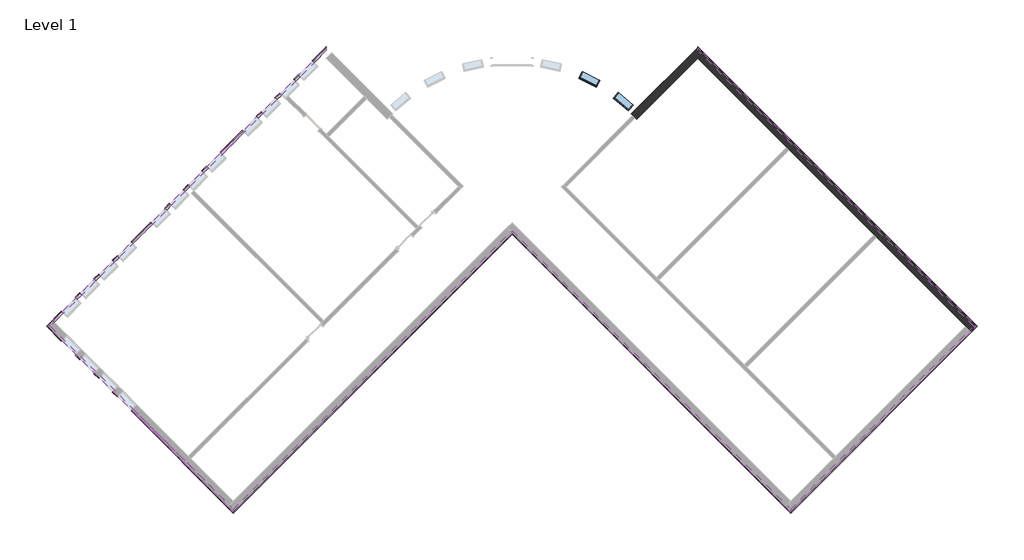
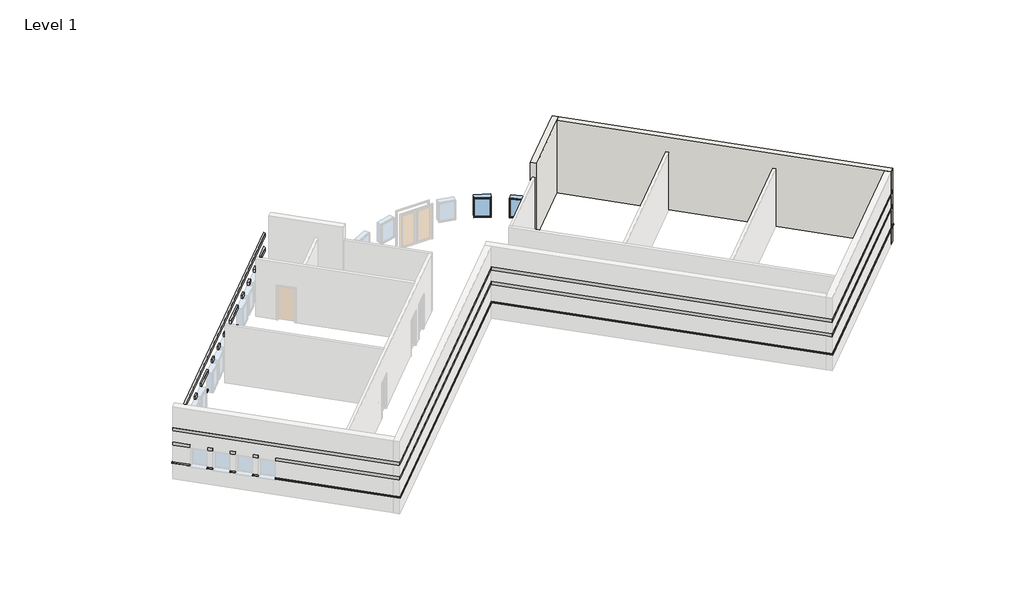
# One storey, part 2 of 2: 18 proxies, 2 walls, 2 windows.
"""IFC4 building model written with IfcOpenShell, lengths in millimetres."""

from ifc_helpers import new_model, si_unit, frame, origin, place, context, project, spatial, polyline, circle_curve, faceted_brep, transform, mapped, element, save
from ifc_brep_helpers import plane_surface, cylinder_surface, revolved_surface, advanced_brep
from components import window_0e2fc6ce

model = new_model("IFC4")

# Units and contexts
model_context = context("Model", 3, world=origin())
ifc_project = project(units=[si_unit("LENGTHUNIT", "METRE", prefix="MILLI")], contexts=[model_context])

# Site, building, storey
site = spatial("IfcSite", under=ifc_project)
building = spatial("IfcBuilding", under=site)
storey = spatial("IfcBuildingStorey", under=building, Name="Level 1", Elevation=0.0)

# Proxies
placement = place(None, origin())
element("IfcBuildingElementProxy", 1, Name="Wall Sweeps", at=placement, inside=storey, context=model_context, shape_type="Brep", body=[
    faceted_brep([(5753.0175119, 11443.3655905, 1085.85), (5753.0175119, 11573.5793042, 1085.85), (5753.0175119, 11622.9707129, 1041.4), (5753.0175119, 11622.9707129, 1016.0), (5753.0175119, 11443.3655905, 1016.0), (18554.3726125, -1357.9895101, 1085.85), (18554.3726125, -1357.9895101, 1016.0), (18733.9777349, -1357.9895101, 1016.0), (18733.9777349, -1357.9895101, 1041.4), (18684.5863263, -1357.9895101, 1085.85), (5937.1127624, 11259.27034, 1085.85), (5937.1127624, 11259.27034, 1016.0)], [[[0, 1, 2, 3, 4]], [[5, 6, 7, 8, 9]], [[1, 0, 10, 5, 9]], [[2, 1, 9, 8]], [[3, 2, 8, 7]], [[4, 3, 7, 6, 11]], [[0, 4, 11, 6, 5, 10]]]),
])
element("IfcBuildingElementProxy", 2, Name="Wall Sweeps", at=placement, inside=storey, context=model_context, shape_type="Brep", body=[
    faceted_brep([(5753.0175119, 11573.5793042, 2336.8), (5753.0175119, 11573.5793042, 2133.6), (5753.0175119, 11443.3655905, 2133.6), (5753.0175119, 11443.3655905, 2336.8), (18684.5863263, -1357.9895101, 2336.8), (18554.3726125, -1357.9895101, 2336.8), (18554.3726125, -1357.9895101, 2133.6), (18684.5863263, -1357.9895101, 2133.6), (6002.2196193, 11324.3771969, 2336.8), (6002.2196193, 11324.3771969, 2133.6), (5937.1127624, 11259.27034, 2133.6), (5937.1127624, 11259.27034, 2336.8)], [[[0, 1, 2, 3]], [[4, 5, 6, 7]], [[1, 0, 8, 4, 7, 9]], [[2, 1, 9, 7, 6, 10]], [[3, 2, 10, 6, 5, 11]], [[0, 3, 11, 5, 4, 8]]]),
])
element("IfcBuildingElementProxy", 3, Name="Wall Sweeps", at=placement, inside=storey, context=model_context, shape_type="Brep", body=[
    faceted_brep([(5753.0175119, 11573.5793042, 3251.2), (5753.0175119, 11573.5793042, 3048.0), (5753.0175119, 11443.3655905, 3048.0), (5753.0175119, 11443.3655905, 3251.2), (18684.5863263, -1357.9895101, 3251.2), (18554.3726125, -1357.9895101, 3251.2), (18554.3726125, -1357.9895101, 3048.0), (18684.5863263, -1357.9895101, 3048.0), (6002.2196193, 11324.3771969, 3251.2), (6002.2196193, 11324.3771969, 3048.0), (5937.1127624, 11259.27034, 3048.0), (5937.1127624, 11259.27034, 3251.2)], [[[0, 1, 2, 3]], [[4, 5, 6, 7]], [[1, 0, 8, 4, 7, 9]], [[2, 1, 9, 7, 6, 10]], [[3, 2, 10, 6, 5, 11]], [[0, 3, 11, 5, 4, 8]]]),
])
element("IfcBuildingElementProxy", 4, Name="Wall Sweeps", at=placement, inside=storey, context=model_context, shape_type="Brep", body=[
    faceted_brep([(18554.3726125, -1357.9895101, 1085.85), (18684.5863263, -1357.9895101, 1085.85), (18733.9777349, -1357.9895101, 1041.4), (18733.9777349, -1357.9895101, 1016.0), (18554.3726125, -1357.9895101, 1016.0), (10063.54045, -9848.8216726, 1085.85), (10063.54045, -9848.8216726, 1016.0), (10063.54045, -10028.426795, 1016.0), (10063.54045, -10028.426795, 1041.4), (10063.54045, -9979.0353863, 1085.85), (18370.277362, -1542.0847606, 1085.85), (18370.277362, -1542.0847606, 1016.0)], [[[0, 1, 2, 3, 4]], [[5, 6, 7, 8, 9]], [[1, 0, 10, 5, 9]], [[2, 1, 9, 8]], [[3, 2, 8, 7]], [[4, 3, 7, 6, 11]], [[0, 4, 11, 6, 5, 10]]]),
])
element("IfcBuildingElementProxy", 5, Name="Wall Sweeps", at=placement, inside=storey, context=model_context, shape_type="Brep", body=[
    faceted_brep([(18684.5863263, -1357.9895101, 2336.8), (18684.5863263, -1357.9895101, 2133.6), (18554.3726125, -1357.9895101, 2133.6), (18554.3726125, -1357.9895101, 2336.8), (10063.54045, -9979.0353863, 2336.8), (10063.54045, -9848.8216726, 2336.8), (10063.54045, -9848.8216726, 2133.6), (10063.54045, -9979.0353863, 2133.6), (18435.3842189, -1607.1916175, 2336.8), (18435.3842189, -1607.1916175, 2133.6), (18370.277362, -1542.0847606, 2133.6), (18370.277362, -1542.0847606, 2336.8)], [[[0, 1, 2, 3]], [[4, 5, 6, 7]], [[1, 0, 8, 4, 7, 9]], [[2, 1, 9, 7, 6, 10]], [[3, 2, 10, 6, 5, 11]], [[0, 3, 11, 5, 4, 8]]]),
])
element("IfcBuildingElementProxy", 6, Name="Wall Sweeps", at=placement, inside=storey, context=model_context, shape_type="Brep", body=[
    faceted_brep([(18684.5863263, -1357.9895101, 3251.2), (18684.5863263, -1357.9895101, 3048.0), (18554.3726125, -1357.9895101, 3048.0), (18554.3726125, -1357.9895101, 3251.2), (10063.54045, -9979.0353863, 3251.2), (10063.54045, -9848.8216726, 3251.2), (10063.54045, -9848.8216726, 3048.0), (10063.54045, -9979.0353863, 3048.0), (18435.3842189, -1607.1916175, 3251.2), (18435.3842189, -1607.1916175, 3048.0), (18370.277362, -1542.0847606, 3048.0), (18370.277362, -1542.0847606, 3251.2)], [[[0, 1, 2, 3]], [[4, 5, 6, 7]], [[1, 0, 8, 4, 7, 9]], [[2, 1, 9, 7, 6, 10]], [[3, 2, 10, 6, 5, 11]], [[0, 3, 11, 5, 4, 8]]]),
])
element("IfcBuildingElementProxy", 7, Name="Wall Sweeps", at=placement, inside=storey, context=model_context, shape_type="Brep", body=[
    faceted_brep([(10063.54045, -9848.8216726, 1085.85), (10063.54045, -9979.0353863, 1085.85), (10063.54045, -10028.426795, 1041.4), (10063.54045, -10028.426795, 1016.0), (10063.54045, -9848.8216726, 1016.0), (-2868.0283643, 3082.7471418, 1085.85), (-2868.0283643, 3082.7471418, 1016.0), (-2868.0283643, 2903.1420194, 1016.0), (-2868.0283643, 2903.1420194, 1041.4), (-2868.0283643, 2952.533428, 1085.85), (9879.4451996, -9664.7264221, 1085.85), (9879.4451996, -9664.7264221, 1016.0)], [[[0, 1, 2, 3, 4]], [[5, 6, 7, 8, 9]], [[1, 0, 10, 5, 9]], [[2, 1, 9, 8]], [[3, 2, 8, 7]], [[4, 3, 7, 6, 11]], [[0, 4, 11, 6, 5, 10]]]),
])
element("IfcBuildingElementProxy", 8, Name="Wall Sweeps", at=placement, inside=storey, context=model_context, shape_type="Brep", body=[
    faceted_brep([(10063.54045, -9979.0353863, 2336.8), (10063.54045, -9979.0353863, 2133.6), (10063.54045, -9848.8216726, 2133.6), (10063.54045, -9848.8216726, 2336.8), (-2868.0283643, 2952.533428, 2336.8), (-2868.0283643, 3082.7471418, 2336.8), (-2868.0283643, 3082.7471418, 2133.6), (-2868.0283643, 2952.533428, 2133.6), (9814.3383427, -9729.833279, 2336.8), (9814.3383427, -9729.833279, 2133.6), (9879.4451996, -9664.7264221, 2133.6), (9879.4451996, -9664.7264221, 2336.8)], [[[0, 1, 2, 3]], [[4, 5, 6, 7]], [[1, 0, 8, 4, 7, 9]], [[2, 1, 9, 7, 6, 10]], [[3, 2, 10, 6, 5, 11]], [[0, 3, 11, 5, 4, 8]]]),
])
element("IfcBuildingElementProxy", 9, Name="Wall Sweeps", at=placement, inside=storey, context=model_context, shape_type="Brep", body=[
    faceted_brep([(10063.54045, -9979.0353863, 3251.2), (10063.54045, -9979.0353863, 3048.0), (10063.54045, -9848.8216726, 3048.0), (10063.54045, -9848.8216726, 3251.2), (-2868.0283643, 2952.533428, 3251.2), (-2868.0283643, 3082.7471418, 3251.2), (-2868.0283643, 3082.7471418, 3048.0), (-2868.0283643, 2952.533428, 3048.0), (9814.3383427, -9729.833279, 3251.2), (9814.3383427, -9729.833279, 3048.0), (9879.4451996, -9664.7264221, 3048.0), (9879.4451996, -9664.7264221, 3251.2)], [[[0, 1, 2, 3]], [[4, 5, 6, 7]], [[1, 0, 8, 4, 7, 9]], [[2, 1, 9, 7, 6, 10]], [[3, 2, 10, 6, 5, 11]], [[0, 3, 11, 5, 4, 8]]]),
])
element("IfcBuildingElementProxy", 10, Name="Wall Sweeps", at=placement, inside=storey, context=model_context, shape_type="Brep", body=[
    faceted_brep([(-2868.0283643, 3082.7471418, 1085.85), (-2868.0283643, 2952.533428, 1085.85), (-2868.0283643, 2903.1420194, 1041.4), (-2868.0283643, 2903.1420194, 1016.0), (-2868.0283643, 3082.7471418, 1016.0), (-15799.5971786, -9848.8216726, 1085.85), (-15799.5971786, -9848.8216726, 1016.0), (-15799.5971786, -10028.426795, 1016.0), (-15799.5971786, -10028.426795, 1041.4), (-15799.5971786, -9979.0353863, 1085.85), (-2933.1352212, 3017.6402849, 1085.85), (-2933.1352212, 3017.6402849, 1016.0)], [[[0, 1, 2, 3, 4]], [[5, 6, 7, 8, 9]], [[1, 0, 10, 5, 9]], [[2, 1, 9, 8]], [[3, 2, 8, 7]], [[4, 3, 7, 6, 11]], [[0, 4, 11, 6, 5, 10]]]),
])
element("IfcBuildingElementProxy", 11, Name="Wall Sweeps", at=placement, inside=storey, context=model_context, shape_type="Brep", body=[
    faceted_brep([(-2868.0283643, 2952.533428, 2336.8), (-2868.0283643, 2952.533428, 2133.6), (-2868.0283643, 3082.7471418, 2133.6), (-2868.0283643, 3082.7471418, 2336.8), (-15799.5971786, -9979.0353863, 2336.8), (-15799.5971786, -9848.8216726, 2336.8), (-15799.5971786, -9848.8216726, 2133.6), (-15799.5971786, -9979.0353863, 2133.6), (-2933.1352212, 3017.6402849, 2133.6), (-2933.1352212, 3017.6402849, 2336.8)], [[[0, 1, 2, 3]], [[4, 5, 6, 7]], [[1, 0, 4, 7]], [[2, 1, 7, 6, 8]], [[3, 2, 8, 6, 5, 9]], [[0, 3, 9, 5, 4]]]),
])
element("IfcBuildingElementProxy", 12, Name="Wall Sweeps", at=placement, inside=storey, context=model_context, shape_type="Brep", body=[
    faceted_brep([(-2868.0283643, 2952.533428, 3251.2), (-2868.0283643, 2952.533428, 3048.0), (-2868.0283643, 3082.7471418, 3048.0), (-2868.0283643, 3082.7471418, 3251.2), (-15799.5971786, -9979.0353863, 3251.2), (-15799.5971786, -9848.8216726, 3251.2), (-15799.5971786, -9848.8216726, 3048.0), (-15799.5971786, -9979.0353863, 3048.0), (-2933.1352212, 3017.6402849, 3048.0), (-2933.1352212, 3017.6402849, 3251.2)], [[[0, 1, 2, 3]], [[4, 5, 6, 7]], [[1, 0, 4, 7]], [[2, 1, 7, 6, 8]], [[3, 2, 8, 6, 5, 9]], [[0, 3, 9, 5, 4]]]),
])
element("IfcBuildingElementProxy", 13, Name="Wall Sweeps", at=placement, inside=storey, context=model_context, shape_type="Brep", body=[
    faceted_brep([(-15799.5971786, -9848.8216726, 1085.85), (-15799.5971786, -9979.0353863, 1085.85), (-15799.5971786, -10028.426795, 1041.4), (-15799.5971786, -10028.426795, 1016.0), (-15799.5971786, -9848.8216726, 1016.0), (-20459.2275735, -5189.1912777, 1085.85), (-20459.2275735, -5189.1912777, 1016.0), (-20524.3344303, -5254.2981346, 1016.0), (-20549.0301347, -5278.993839, 1016.0), (-20549.0301347, -5278.993839, 1041.4), (-20524.3344303, -5254.2981346, 1085.85), (-15983.6924291, -9664.7264221, 1085.85), (-15983.6924291, -9664.7264221, 1016.0)], [[[0, 1, 2, 3, 4]], [[5, 6, 7, 8, 9, 10]], [[1, 0, 11, 5, 10]], [[2, 1, 10, 9]], [[3, 2, 9, 8]], [[4, 3, 8, 7, 6, 12]], [[0, 4, 12, 6, 5, 11]]]),
    faceted_brep([(-21105.8060142, -4542.612837, 1085.85), (-21170.9128711, -4607.7196939, 1085.85), (-21195.6085754, -4632.4153982, 1041.4), (-21195.6085754, -4632.4153982, 1016.0), (-21170.9128711, -4607.7196939, 1016.0), (-21105.8060142, -4542.612837, 1016.0), (-21321.3321611, -4327.0866901, 1085.85), (-21321.3321611, -4327.0866901, 1016.0), (-21386.439018, -4392.193547, 1016.0), (-21411.1347223, -4416.8892513, 1016.0), (-21411.1347223, -4416.8892513, 1041.4), (-21386.439018, -4392.193547, 1085.85)], [[[0, 1, 2, 3, 4, 5]], [[6, 7, 8, 9, 10, 11]], [[1, 0, 6, 11]], [[2, 1, 11, 10]], [[3, 2, 10, 9]], [[5, 4, 3, 9, 8, 7]], [[0, 5, 7, 6]]]),
    faceted_brep([(-21967.9106018, -3680.5082494, 1085.85), (-22033.0174587, -3745.6151063, 1085.85), (-22057.713163, -3770.3108106, 1041.4), (-22057.713163, -3770.3108106, 1016.0), (-22033.0174587, -3745.6151063, 1016.0), (-21967.9106018, -3680.5082494, 1016.0), (-22183.4367487, -3464.9821025, 1085.85), (-22183.4367487, -3464.9821025, 1016.0), (-22248.5436056, -3530.0889594, 1016.0), (-22273.2393099, -3554.7846637, 1016.0), (-22273.2393099, -3554.7846637, 1041.4), (-22248.5436056, -3530.0889594, 1085.85)], [[[0, 1, 2, 3, 4, 5]], [[6, 7, 8, 9, 10, 11]], [[1, 0, 6, 11]], [[2, 1, 11, 10]], [[3, 2, 10, 9]], [[5, 4, 3, 9, 8, 7]], [[0, 5, 7, 6]]]),
    faceted_brep([(-22830.0151894, -2818.4036618, 1085.85), (-22895.1220463, -2883.5105187, 1085.85), (-22919.8177506, -2908.206223, 1041.4), (-22919.8177506, -2908.206223, 1016.0), (-22895.1220463, -2883.5105187, 1016.0), (-22830.0151894, -2818.4036618, 1016.0), (-23045.5413363, -2602.8775149, 1085.85), (-23045.5413363, -2602.8775149, 1016.0), (-23110.6481932, -2667.9843718, 1016.0), (-23135.3438975, -2692.6800761, 1016.0), (-23135.3438975, -2692.6800761, 1041.4), (-23110.6481932, -2667.9843718, 1085.85)], [[[0, 1, 2, 3, 4, 5]], [[6, 7, 8, 9, 10, 11]], [[1, 0, 6, 11]], [[2, 1, 11, 10]], [[3, 2, 10, 9]], [[5, 4, 3, 9, 8, 7]], [[0, 5, 7, 6]]]),
    faceted_brep([(-23692.119777, -1956.2990742, 1085.85), (-23757.2266339, -2021.405931, 1085.85), (-23781.9223383, -2046.1016354, 1041.4), (-23781.9223383, -2046.1016354, 1016.0), (-23757.2266339, -2021.405931, 1016.0), (-23692.119777, -1956.2990742, 1016.0), (-24290.4293411, -1357.9895101, 1085.85), (-24290.4293411, -1357.9895101, 1016.0), (-24470.0344635, -1357.9895101, 1016.0), (-24470.0344635, -1357.9895101, 1041.4), (-24420.6430549, -1357.9895101, 1085.85)], [[[0, 1, 2, 3, 4, 5]], [[6, 7, 8, 9, 10]], [[1, 0, 6, 10]], [[2, 1, 10, 9]], [[3, 2, 9, 8]], [[5, 4, 3, 8, 7]], [[0, 5, 7, 6]]]),
])
element("IfcBuildingElementProxy", 14, Name="Wall Sweeps", at=placement, inside=storey, context=model_context, shape_type="Brep", body=[
    faceted_brep([(-15799.5971786, -9979.0353863, 2336.8), (-15799.5971786, -9979.0353863, 2133.6), (-15799.5971786, -9848.8216726, 2133.6), (-15799.5971786, -9848.8216726, 2336.8), (-20524.3344303, -5254.2981346, 2336.8), (-20459.2275735, -5189.1912777, 2336.8), (-20459.2275735, -5189.1912777, 2133.6), (-20524.3344303, -5254.2981346, 2133.6), (-16048.799286, -9729.833279, 2336.8), (-16048.799286, -9729.833279, 2133.6), (-15983.6924291, -9664.7264221, 2133.6), (-15983.6924291, -9664.7264221, 2336.8)], [[[0, 1, 2, 3]], [[4, 5, 6, 7]], [[1, 0, 8, 4, 7, 9]], [[2, 1, 9, 7, 6, 10]], [[3, 2, 10, 6, 5, 11]], [[0, 3, 11, 5, 4, 8]]]),
    faceted_brep([(-21170.9128711, -4607.7196939, 2336.8), (-21170.9128711, -4607.7196939, 2133.6), (-21105.8060142, -4542.612837, 2133.6), (-21105.8060142, -4542.612837, 2336.8), (-21386.439018, -4392.193547, 2336.8), (-21321.3321611, -4327.0866901, 2336.8), (-21321.3321611, -4327.0866901, 2133.6), (-21386.439018, -4392.193547, 2133.6)], [[[0, 1, 2, 3]], [[4, 5, 6, 7]], [[1, 0, 4, 7]], [[2, 1, 7, 6]], [[3, 2, 6, 5]], [[0, 3, 5, 4]]]),
    faceted_brep([(-22033.0174587, -3745.6151063, 2336.8), (-22033.0174587, -3745.6151063, 2133.6), (-21967.9106018, -3680.5082494, 2133.6), (-21967.9106018, -3680.5082494, 2336.8), (-22248.5436056, -3530.0889594, 2336.8), (-22183.4367487, -3464.9821025, 2336.8), (-22183.4367487, -3464.9821025, 2133.6), (-22248.5436056, -3530.0889594, 2133.6)], [[[0, 1, 2, 3]], [[4, 5, 6, 7]], [[1, 0, 4, 7]], [[2, 1, 7, 6]], [[3, 2, 6, 5]], [[0, 3, 5, 4]]]),
    faceted_brep([(-22895.1220463, -2883.5105187, 2336.8), (-22895.1220463, -2883.5105187, 2133.6), (-22830.0151894, -2818.4036618, 2133.6), (-22830.0151894, -2818.4036618, 2336.8), (-23110.6481932, -2667.9843718, 2336.8), (-23045.5413363, -2602.8775149, 2336.8), (-23045.5413363, -2602.8775149, 2133.6), (-23110.6481932, -2667.9843718, 2133.6)], [[[0, 1, 2, 3]], [[4, 5, 6, 7]], [[1, 0, 4, 7]], [[2, 1, 7, 6]], [[3, 2, 6, 5]], [[0, 3, 5, 4]]]),
    faceted_brep([(-23757.2266339, -2021.405931, 2336.8), (-23757.2266339, -2021.405931, 2133.6), (-23692.119777, -1956.2990742, 2133.6), (-23692.119777, -1956.2990742, 2336.8), (-24420.6430549, -1357.9895101, 2336.8), (-24290.4293411, -1357.9895101, 2336.8), (-24290.4293411, -1357.9895101, 2133.6), (-24420.6430549, -1357.9895101, 2133.6)], [[[0, 1, 2, 3]], [[4, 5, 6, 7]], [[1, 0, 4, 7]], [[2, 1, 7, 6]], [[3, 2, 6, 5]], [[0, 3, 5, 4]]]),
])
element("IfcBuildingElementProxy", 15, Name="Wall Sweeps", at=placement, inside=storey, context=model_context, shape_type="Brep", body=[
    faceted_brep([(-15799.5971786, -9979.0353863, 3251.2), (-15799.5971786, -9979.0353863, 3048.0), (-15799.5971786, -9848.8216726, 3048.0), (-15799.5971786, -9848.8216726, 3251.2), (-24420.6430549, -1357.9895101, 3251.2), (-24290.4293411, -1357.9895101, 3251.2), (-24290.4293411, -1357.9895101, 3048.0), (-24420.6430549, -1357.9895101, 3048.0), (-16048.799286, -9729.833279, 3251.2), (-16048.799286, -9729.833279, 3048.0), (-15983.6924291, -9664.7264221, 3048.0), (-15983.6924291, -9664.7264221, 3251.2)], [[[0, 1, 2, 3]], [[4, 5, 6, 7]], [[1, 0, 8, 4, 7, 9]], [[2, 1, 9, 7, 6, 10]], [[3, 2, 10, 6, 5, 11]], [[0, 3, 11, 5, 4, 8]]]),
])
element("IfcBuildingElementProxy", 16, Name="Wall Sweeps", at=placement, inside=storey, context=model_context, shape_type="Brep", body=[
    faceted_brep([(-24290.4293411, -1357.9895101, 1085.85), (-24420.6430549, -1357.9895101, 1085.85), (-24470.0344635, -1357.9895101, 1041.4), (-24470.0344635, -1357.9895101, 1016.0), (-24290.4293411, -1357.9895101, 1016.0), (-23692.119777, -759.679946, 1085.85), (-23692.119777, -759.679946, 1016.0), (-23757.2266339, -694.5730891, 1016.0), (-23781.9223383, -669.8773848, 1016.0), (-23781.9223383, -669.8773848, 1041.4), (-23757.2266339, -694.5730891, 1085.85), (-24106.3340906, -1173.8942596, 1085.85), (-24106.3340906, -1173.8942596, 1016.0)], [[[0, 1, 2, 3, 4]], [[5, 6, 7, 8, 9, 10]], [[1, 0, 11, 5, 10]], [[2, 1, 10, 9]], [[3, 2, 9, 8]], [[4, 3, 8, 7, 6, 12]], [[0, 4, 12, 6, 5, 11]]]),
    faceted_brep([(-23045.5413363, -113.1015053, 1085.85), (-23110.6481932, -47.9946484, 1085.85), (-23135.3438975, -23.2989441, 1041.4), (-23135.3438975, -23.2989441, 1016.0), (-23110.6481932, -47.9946484, 1016.0), (-23045.5413363, -113.1015053, 1016.0), (-22830.0151894, 102.4246416, 1085.85), (-22830.0151894, 102.4246416, 1016.0), (-22895.1220463, 167.5314985, 1016.0), (-22919.8177506, 192.2272028, 1016.0), (-22919.8177506, 192.2272028, 1041.4), (-22895.1220463, 167.5314985, 1085.85)], [[[0, 1, 2, 3, 4, 5]], [[6, 7, 8, 9, 10, 11]], [[1, 0, 6, 11]], [[2, 1, 11, 10]], [[3, 2, 10, 9]], [[5, 4, 3, 9, 8, 7]], [[0, 5, 7, 6]]]),
    faceted_brep([(-22183.4367487, 749.0030823, 1085.85), (-22248.5436056, 814.1099392, 1085.85), (-22273.2393099, 838.8056435, 1041.4), (-22273.2393099, 838.8056435, 1016.0), (-22248.5436056, 814.1099392, 1016.0), (-22183.4367487, 749.0030823, 1016.0), (-21967.9106018, 964.5292292, 1085.85), (-21967.9106018, 964.5292292, 1016.0), (-22033.0174587, 1029.6360861, 1016.0), (-22057.713163, 1054.3317904, 1016.0), (-22057.713163, 1054.3317904, 1041.4), (-22033.0174587, 1029.6360861, 1085.85)], [[[0, 1, 2, 3, 4, 5]], [[6, 7, 8, 9, 10, 11]], [[1, 0, 6, 11]], [[2, 1, 11, 10]], [[3, 2, 10, 9]], [[5, 4, 3, 9, 8, 7]], [[0, 5, 7, 6]]]),
    faceted_brep([(-21321.3321611, 1611.1076699, 1085.85), (-21386.439018, 1676.2145268, 1085.85), (-21411.1347223, 1700.9102311, 1041.4), (-21411.1347223, 1700.9102311, 1016.0), (-21386.439018, 1676.2145268, 1016.0), (-21321.3321611, 1611.1076699, 1016.0), (-21105.8060142, 1826.6338168, 1085.85), (-21105.8060142, 1826.6338168, 1016.0), (-21170.9128711, 1891.7406737, 1016.0), (-21195.6085754, 1916.4363781, 1016.0), (-21195.6085754, 1916.4363781, 1041.4), (-21170.9128711, 1891.7406737, 1085.85)], [[[0, 1, 2, 3, 4, 5]], [[6, 7, 8, 9, 10, 11]], [[1, 0, 6, 11]], [[2, 1, 11, 10]], [[3, 2, 10, 9]], [[5, 4, 3, 9, 8, 7]], [[0, 5, 7, 6]]]),
    faceted_brep([(-20459.2275735, 2473.2122576, 1085.85), (-20524.3344303, 2538.3191144, 1085.85), (-20549.0301347, 2563.0148188, 1041.4), (-20549.0301347, 2563.0148188, 1016.0), (-20524.3344303, 2538.3191144, 1016.0), (-20459.2275735, 2473.2122576, 1016.0), (-19544.2461989, 3388.1936322, 1085.85), (-19544.2461989, 3388.1936322, 1016.0), (-19609.3530557, 3453.300489, 1016.0), (-19634.0487601, 3477.9961934, 1016.0), (-19634.0487601, 3477.9961934, 1041.4), (-19609.3530557, 3453.300489, 1085.85)], [[[0, 1, 2, 3, 4, 5]], [[6, 7, 8, 9, 10, 11]], [[1, 0, 6, 11]], [[2, 1, 11, 10]], [[3, 2, 10, 9]], [[5, 4, 3, 9, 8, 7]], [[0, 5, 7, 6]]]),
    faceted_brep([(-18897.6677581, 4034.7720729, 1085.85), (-18962.774615, 4099.8789298, 1085.85), (-18987.4703194, 4124.5746341, 1041.4), (-18987.4703194, 4124.5746341, 1016.0), (-18962.774615, 4099.8789298, 1016.0), (-18897.6677581, 4034.7720729, 1016.0), (-18682.1416112, 4250.2982198, 1085.85), (-18682.1416112, 4250.2982198, 1016.0), (-18747.2484681, 4315.4050767, 1016.0), (-18771.9441724, 4340.100781, 1016.0), (-18771.9441724, 4340.100781, 1041.4), (-18747.2484681, 4315.4050767, 1085.85)], [[[0, 1, 2, 3, 4, 5]], [[6, 7, 8, 9, 10, 11]], [[1, 0, 6, 11]], [[2, 1, 11, 10]], [[3, 2, 10, 9]], [[5, 4, 3, 9, 8, 7]], [[0, 5, 7, 6]]]),
    faceted_brep([(-18035.5631705, 4896.8766605, 1085.85), (-18100.6700274, 4961.9835174, 1085.85), (-18125.3657317, 4986.6792217, 1041.4), (-18125.3657317, 4986.6792217, 1016.0), (-18100.6700274, 4961.9835174, 1016.0), (-18035.5631705, 4896.8766605, 1016.0), (-17820.0370236, 5112.4028074, 1085.85), (-17820.0370236, 5112.4028074, 1016.0), (-17885.1438805, 5177.5096643, 1016.0), (-17909.8395848, 5202.2053686, 1016.0), (-17909.8395848, 5202.2053686, 1041.4), (-17885.1438805, 5177.5096643, 1085.85)], [[[0, 1, 2, 3, 4, 5]], [[6, 7, 8, 9, 10, 11]], [[1, 0, 6, 11]], [[2, 1, 11, 10]], [[3, 2, 10, 9]], [[5, 4, 3, 9, 8, 7]], [[0, 5, 7, 6]]]),
    faceted_brep([(-17173.4585829, 5758.9812481, 1085.85), (-17238.5654398, 5824.088105, 1085.85), (-17263.2611441, 5848.7838093, 1041.4), (-17263.2611441, 5848.7838093, 1016.0), (-17238.5654398, 5824.088105, 1016.0), (-17173.4585829, 5758.9812481, 1016.0), (-16957.932436, 5974.507395, 1085.85), (-16957.932436, 5974.507395, 1016.0), (-17023.0392929, 6039.6142519, 1016.0), (-17047.7349972, 6064.3099562, 1016.0), (-17047.7349972, 6064.3099562, 1041.4), (-17023.0392929, 6039.6142519, 1085.85)], [[[0, 1, 2, 3, 4, 5]], [[6, 7, 8, 9, 10, 11]], [[1, 0, 6, 11]], [[2, 1, 11, 10]], [[3, 2, 10, 9]], [[5, 4, 3, 9, 8, 7]], [[0, 5, 7, 6]]]),
    faceted_brep([(-16311.3539953, 6621.0858357, 1085.85), (-16376.4608522, 6686.1926926, 1085.85), (-16401.1565565, 6710.888397, 1041.4), (-16401.1565565, 6710.888397, 1016.0), (-16376.4608522, 6686.1926926, 1016.0), (-16311.3539953, 6621.0858357, 1016.0), (-15286.3644832, 7646.0753478, 1085.85), (-15286.3644832, 7646.0753478, 1016.0), (-15351.4713401, 7711.1822047, 1016.0), (-15376.1670444, 7735.877909, 1016.0), (-15376.1670444, 7735.877909, 1041.4), (-15351.4713401, 7711.1822047, 1085.85)], [[[0, 1, 2, 3, 4, 5]], [[6, 7, 8, 9, 10, 11]], [[1, 0, 6, 11]], [[2, 1, 11, 10]], [[3, 2, 10, 9]], [[5, 4, 3, 9, 8, 7]], [[0, 5, 7, 6]]]),
    faceted_brep([(-14639.7860425, 8292.6537886, 1085.85), (-14704.8928993, 8357.7606454, 1085.85), (-14729.5886037, 8382.4563498, 1041.4), (-14729.5886037, 8382.4563498, 1016.0), (-14704.8928993, 8357.7606454, 1016.0), (-14639.7860425, 8292.6537886, 1016.0), (-14424.2598956, 8508.1799355, 1085.85), (-14424.2598956, 8508.1799355, 1016.0), (-14489.3667524, 8573.2867923, 1016.0), (-14514.0624568, 8597.9824967, 1016.0), (-14514.0624568, 8597.9824967, 1041.4), (-14489.3667524, 8573.2867923, 1085.85)], [[[0, 1, 2, 3, 4, 5]], [[6, 7, 8, 9, 10, 11]], [[1, 0, 6, 11]], [[2, 1, 11, 10]], [[3, 2, 10, 9]], [[5, 4, 3, 9, 8, 7]], [[0, 5, 7, 6]]]),
    faceted_brep([(-13777.6814548, 9154.7583762, 1085.85), (-13842.7883117, 9219.8652331, 1085.85), (-13867.4840161, 9244.5609374, 1041.4), (-13867.4840161, 9244.5609374, 1016.0), (-13842.7883117, 9219.8652331, 1016.0), (-13777.6814548, 9154.7583762, 1016.0), (-13562.1553079, 9370.2845231, 1085.85), (-13562.1553079, 9370.2845231, 1016.0), (-13627.2621648, 9435.39138, 1016.0), (-13651.9578691, 9460.0870843, 1016.0), (-13651.9578691, 9460.0870843, 1041.4), (-13627.2621648, 9435.39138, 1085.85)], [[[0, 1, 2, 3, 4, 5]], [[6, 7, 8, 9, 10, 11]], [[1, 0, 6, 11]], [[2, 1, 11, 10]], [[3, 2, 10, 9]], [[5, 4, 3, 9, 8, 7]], [[0, 5, 7, 6]]]),
    faceted_brep([(-12915.5768672, 10016.8629638, 1085.85), (-12980.6837241, 10081.9698207, 1085.85), (-13005.3794284, 10106.665525, 1041.4), (-13005.3794284, 10106.665525, 1016.0), (-12980.6837241, 10081.9698207, 1016.0), (-12915.5768672, 10016.8629638, 1016.0), (-12700.0507203, 10232.3891107, 1085.85), (-12700.0507203, 10232.3891107, 1016.0), (-12765.1575772, 10297.4959676, 1016.0), (-12789.8532815, 10322.1916719, 1016.0), (-12789.8532815, 10322.1916719, 1041.4), (-12765.1575772, 10297.4959676, 1085.85)], [[[0, 1, 2, 3, 4, 5]], [[6, 7, 8, 9, 10, 11]], [[1, 0, 6, 11]], [[2, 1, 11, 10]], [[3, 2, 10, 9]], [[5, 4, 3, 9, 8, 7]], [[0, 5, 7, 6]]]),
    faceted_brep([(-12053.4722796, 10878.9675514, 1085.85), (-12118.5791365, 10944.0744083, 1085.85), (-12143.2748408, 10968.7701126, 1041.4), (-12143.2748408, 10968.7701126, 1016.0), (-12118.5791365, 10944.0744083, 1016.0), (-12053.4722796, 10878.9675514, 1016.0), (-11489.0742405, 11443.3655905, 1085.85), (-11489.0742405, 11443.3655905, 1016.0), (-11489.0742405, 11622.9707129, 1016.0), (-11489.0742405, 11622.9707129, 1041.4), (-11489.0742405, 11573.5793042, 1085.85)], [[[0, 1, 2, 3, 4, 5]], [[6, 7, 8, 9, 10]], [[1, 0, 6, 10]], [[2, 1, 10, 9]], [[3, 2, 9, 8]], [[5, 4, 3, 8, 7]], [[0, 5, 7, 6]]]),
])
element("IfcBuildingElementProxy", 17, Name="Wall Sweeps", at=placement, inside=storey, context=model_context, shape_type="Brep", body=[
    faceted_brep([(-24420.6430549, -1357.9895101, 2336.8), (-24420.6430549, -1357.9895101, 2133.6), (-24290.4293411, -1357.9895101, 2133.6), (-24290.4293411, -1357.9895101, 2336.8), (-23757.2266339, -694.5730891, 2336.8), (-23692.119777, -759.679946, 2336.8), (-23692.119777, -759.679946, 2133.6), (-23757.2266339, -694.5730891, 2133.6), (-24171.4409475, -1108.7874027, 2336.8), (-24171.4409475, -1108.7874027, 2133.6), (-24106.3340906, -1173.8942596, 2133.6), (-24106.3340906, -1173.8942596, 2336.8)], [[[0, 1, 2, 3]], [[4, 5, 6, 7]], [[1, 0, 8, 4, 7, 9]], [[2, 1, 9, 7, 6, 10]], [[3, 2, 10, 6, 5, 11]], [[0, 3, 11, 5, 4, 8]]]),
    faceted_brep([(-23110.6481932, -47.9946484, 2336.8), (-23110.6481932, -47.9946484, 2133.6), (-23045.5413363, -113.1015053, 2133.6), (-23045.5413363, -113.1015053, 2336.8), (-22895.1220463, 167.5314985, 2336.8), (-22830.0151894, 102.4246416, 2336.8), (-22830.0151894, 102.4246416, 2133.6), (-22895.1220463, 167.5314985, 2133.6)], [[[0, 1, 2, 3]], [[4, 5, 6, 7]], [[1, 0, 4, 7]], [[2, 1, 7, 6]], [[3, 2, 6, 5]], [[0, 3, 5, 4]]]),
    faceted_brep([(-22248.5436056, 814.1099392, 2336.8), (-22248.5436056, 814.1099392, 2133.6), (-22183.4367487, 749.0030823, 2133.6), (-22183.4367487, 749.0030823, 2336.8), (-22033.0174587, 1029.6360861, 2336.8), (-21967.9106018, 964.5292292, 2336.8), (-21967.9106018, 964.5292292, 2133.6), (-22033.0174587, 1029.6360861, 2133.6)], [[[0, 1, 2, 3]], [[4, 5, 6, 7]], [[1, 0, 4, 7]], [[2, 1, 7, 6]], [[3, 2, 6, 5]], [[0, 3, 5, 4]]]),
    faceted_brep([(-21386.439018, 1676.2145268, 2336.8), (-21386.439018, 1676.2145268, 2133.6), (-21321.3321611, 1611.1076699, 2133.6), (-21321.3321611, 1611.1076699, 2336.8), (-21170.9128711, 1891.7406737, 2336.8), (-21105.8060142, 1826.6338168, 2336.8), (-21105.8060142, 1826.6338168, 2133.6), (-21170.9128711, 1891.7406737, 2133.6)], [[[0, 1, 2, 3]], [[4, 5, 6, 7]], [[1, 0, 4, 7]], [[2, 1, 7, 6]], [[3, 2, 6, 5]], [[0, 3, 5, 4]]]),
    faceted_brep([(-20524.3344303, 2538.3191144, 2336.8), (-20524.3344303, 2538.3191144, 2133.6), (-20459.2275735, 2473.2122576, 2133.6), (-20459.2275735, 2473.2122576, 2336.8), (-19609.3530557, 3453.300489, 2336.8), (-19544.2461989, 3388.1936322, 2336.8), (-19544.2461989, 3388.1936322, 2133.6), (-19609.3530557, 3453.300489, 2133.6)], [[[0, 1, 2, 3]], [[4, 5, 6, 7]], [[1, 0, 4, 7]], [[2, 1, 7, 6]], [[3, 2, 6, 5]], [[0, 3, 5, 4]]]),
    faceted_brep([(-18962.774615, 4099.8789298, 2336.8), (-18962.774615, 4099.8789298, 2133.6), (-18897.6677581, 4034.7720729, 2133.6), (-18897.6677581, 4034.7720729, 2336.8), (-18747.2484681, 4315.4050767, 2336.8), (-18682.1416112, 4250.2982198, 2336.8), (-18682.1416112, 4250.2982198, 2133.6), (-18747.2484681, 4315.4050767, 2133.6)], [[[0, 1, 2, 3]], [[4, 5, 6, 7]], [[1, 0, 4, 7]], [[2, 1, 7, 6]], [[3, 2, 6, 5]], [[0, 3, 5, 4]]]),
    faceted_brep([(-18100.6700274, 4961.9835174, 2336.8), (-18100.6700274, 4961.9835174, 2133.6), (-18035.5631705, 4896.8766605, 2133.6), (-18035.5631705, 4896.8766605, 2336.8), (-17885.1438805, 5177.5096643, 2336.8), (-17820.0370236, 5112.4028074, 2336.8), (-17820.0370236, 5112.4028074, 2133.6), (-17885.1438805, 5177.5096643, 2133.6)], [[[0, 1, 2, 3]], [[4, 5, 6, 7]], [[1, 0, 4, 7]], [[2, 1, 7, 6]], [[3, 2, 6, 5]], [[0, 3, 5, 4]]]),
    faceted_brep([(-17238.5654398, 5824.088105, 2336.8), (-17238.5654398, 5824.088105, 2133.6), (-17173.4585829, 5758.9812481, 2133.6), (-17173.4585829, 5758.9812481, 2336.8), (-17023.0392929, 6039.6142519, 2336.8), (-16957.932436, 5974.507395, 2336.8), (-16957.932436, 5974.507395, 2133.6), (-17023.0392929, 6039.6142519, 2133.6)], [[[0, 1, 2, 3]], [[4, 5, 6, 7]], [[1, 0, 4, 7]], [[2, 1, 7, 6]], [[3, 2, 6, 5]], [[0, 3, 5, 4]]]),
    faceted_brep([(-16376.4608522, 6686.1926926, 2336.8), (-16376.4608522, 6686.1926926, 2133.6), (-16311.3539953, 6621.0858357, 2133.6), (-16311.3539953, 6621.0858357, 2336.8), (-15351.4713401, 7711.1822047, 2336.8), (-15286.3644832, 7646.0753478, 2336.8), (-15286.3644832, 7646.0753478, 2133.6), (-15351.4713401, 7711.1822047, 2133.6)], [[[0, 1, 2, 3]], [[4, 5, 6, 7]], [[1, 0, 4, 7]], [[2, 1, 7, 6]], [[3, 2, 6, 5]], [[0, 3, 5, 4]]]),
    faceted_brep([(-14704.8928993, 8357.7606454, 2336.8), (-14704.8928993, 8357.7606454, 2133.6), (-14639.7860425, 8292.6537886, 2133.6), (-14639.7860425, 8292.6537886, 2336.8), (-14489.3667524, 8573.2867923, 2336.8), (-14424.2598956, 8508.1799355, 2336.8), (-14424.2598956, 8508.1799355, 2133.6), (-14489.3667524, 8573.2867923, 2133.6)], [[[0, 1, 2, 3]], [[4, 5, 6, 7]], [[1, 0, 4, 7]], [[2, 1, 7, 6]], [[3, 2, 6, 5]], [[0, 3, 5, 4]]]),
    faceted_brep([(-13842.7883117, 9219.8652331, 2336.8), (-13842.7883117, 9219.8652331, 2133.6), (-13777.6814548, 9154.7583762, 2133.6), (-13777.6814548, 9154.7583762, 2336.8), (-13627.2621648, 9435.39138, 2336.8), (-13562.1553079, 9370.2845231, 2336.8), (-13562.1553079, 9370.2845231, 2133.6), (-13627.2621648, 9435.39138, 2133.6)], [[[0, 1, 2, 3]], [[4, 5, 6, 7]], [[1, 0, 4, 7]], [[2, 1, 7, 6]], [[3, 2, 6, 5]], [[0, 3, 5, 4]]]),
    faceted_brep([(-12980.6837241, 10081.9698207, 2336.8), (-12980.6837241, 10081.9698207, 2133.6), (-12915.5768672, 10016.8629638, 2133.6), (-12915.5768672, 10016.8629638, 2336.8), (-12765.1575772, 10297.4959676, 2336.8), (-12700.0507203, 10232.3891107, 2336.8), (-12700.0507203, 10232.3891107, 2133.6), (-12765.1575772, 10297.4959676, 2133.6)], [[[0, 1, 2, 3]], [[4, 5, 6, 7]], [[1, 0, 4, 7]], [[2, 1, 7, 6]], [[3, 2, 6, 5]], [[0, 3, 5, 4]]]),
    faceted_brep([(-12118.5791365, 10944.0744083, 2336.8), (-12118.5791365, 10944.0744083, 2133.6), (-12053.4722796, 10878.9675514, 2133.6), (-12053.4722796, 10878.9675514, 2336.8), (-11489.0742405, 11573.5793042, 2336.8), (-11489.0742405, 11443.3655905, 2336.8), (-11489.0742405, 11443.3655905, 2133.6), (-11489.0742405, 11573.5793042, 2133.6)], [[[0, 1, 2, 3]], [[4, 5, 6, 7]], [[1, 0, 4, 7]], [[2, 1, 7, 6]], [[3, 2, 6, 5]], [[0, 3, 5, 4]]]),
])
element("IfcBuildingElementProxy", 18, Name="Wall Sweeps", at=placement, inside=storey, context=model_context, shape_type="Brep", body=[
    faceted_brep([(-24420.6430549, -1357.9895101, 3251.2), (-24420.6430549, -1357.9895101, 3048.0), (-24290.4293411, -1357.9895101, 3048.0), (-24290.4293411, -1357.9895101, 3251.2), (-11489.0742405, 11573.5793042, 3251.2), (-11489.0742405, 11443.3655905, 3251.2), (-11489.0742405, 11443.3655905, 3048.0), (-11489.0742405, 11573.5793042, 3048.0), (-24171.4409475, -1108.7874027, 3251.2), (-24171.4409475, -1108.7874027, 3048.0), (-24106.3340906, -1173.8942596, 3048.0), (-24106.3340906, -1173.8942596, 3251.2)], [[[0, 1, 2, 3]], [[4, 5, 6, 7]], [[1, 0, 8, 4, 7, 9]], [[2, 1, 9, 7, 6, 10]], [[3, 2, 10, 6, 5, 11]], [[0, 3, 11, 5, 4, 8]]]),
])

# Walls
element("IfcWall", 19, ObjectType="Exterior - Split Face and CMU on Mtl. Stud", at=placement, inside=storey, context=model_context, shape_type="AdvancedBrep", body=[
    advanced_brep(
    [(2921.9555443, 8244.1131219, 4572.0), (5753.0175119, 11075.1750895, 4572.0), (6002.2196193, 11324.3771969, 4572.0), (5753.0175119, 11573.5793042, 4572.0), (2926.4294954, 8746.9912878, 4572.0), (2677.2250436, 8497.7868359, 4572.0), (2921.9555443, 8244.1131219, 0.0), (5753.0175119, 11075.1750895, 0.0), (6002.2196193, 11324.3771969, 0.0), (6002.2196193, 11324.3771969, 1016.0), (5937.1127624, 11259.27034, 1016.0), (5937.1127624, 11259.27034, 1085.85), (6002.2196193, 11324.3771969, 1085.85), (6002.2196193, 11324.3771969, 2133.6), (5937.1127624, 11259.27034, 2133.6), (5937.1127624, 11259.27034, 2336.8), (6002.2196193, 11324.3771969, 2336.8), (6002.2196193, 11324.3771969, 3048.0), (5937.1127624, 11259.27034, 3048.0), (5937.1127624, 11259.27034, 3251.2), (6002.2196193, 11324.3771969, 3251.2), (5753.0175119, 11573.5793042, 3251.2), (2926.4294954, 8746.9912878, 3251.2), (2861.3220456, 8681.8838379, 3251.2), (2861.3220456, 8681.8838379, 3048.0), (2926.4294954, 8746.9912878, 3048.0), (5753.0175119, 11573.5793042, 3048.0), (5753.0175119, 11573.5793042, 2336.8), (2926.4294954, 8746.9912878, 2336.8), (2861.3220456, 8681.8838379, 2336.8), (2861.3220456, 8681.8838379, 2133.6), (2926.4294954, 8746.9912878, 2133.6), (5753.0175119, 11573.5793042, 2133.6), (5753.0175119, 11573.5793042, 1085.85), (2926.4294954, 8746.9912878, 1085.85), (2861.3220456, 8681.8838379, 1085.85), (2861.3220456, 8681.8838379, 1016.0), (2926.4294954, 8746.9912878, 1016.0), (5753.0175119, 11573.5793042, 1016.0), (5753.0175119, 11573.5793042, 0.0), (2926.4294954, 8746.9912878, 0.0), (2677.2250436, 8497.7868359, 0.0), (2854.7273962, 8316.0850482, 0.0), (2746.6959573, 8428.0634439, 0.0), (2742.2400511, 8432.5881297, 0.0), (5818.1243688, 11508.4724474, 0.0), (5753.0175119, 11443.3655905, 1085.85), (2926.3399919, 8616.6880705, 1085.85), (2926.3399919, 8616.6880705, 1016.0), (5753.0175119, 11443.3655905, 1016.0), (2926.3399919, 8616.6880705, 2133.6), (5753.0175119, 11443.3655905, 2133.6), (2926.3399919, 8616.6880705, 2336.8), (5753.0175119, 11443.3655905, 2336.8), (2926.3399919, 8616.6880705, 3048.0), (5753.0175119, 11443.3655905, 3048.0), (2926.3399919, 8616.6880705, 3251.2), (5753.0175119, 11443.3655905, 3251.2)],
    [
        (0, 1),
        (1, 2),
        (2, 3),
        (3, 4),
        (4, 5),
        (5, 0, circle_curve(frame((-2868.0283643, 2903.1420194, 4572.0), z_axis=(0.0, 0.0, -1.0), x_axis=(1.0, 0.0, 0.0)), 7877.175)),
        (6, 7),
        (7, 8),
        (8, 9),
        (9, 10),
        (10, 11),
        (11, 12),
        (12, 13),
        (13, 14),
        (14, 15),
        (15, 16),
        (16, 17),
        (17, 18),
        (18, 19),
        (19, 20),
        (20, 2),
        (0, 6),
        (3, 21),
        (21, 22),
        (22, 23),
        (23, 24),
        (24, 25),
        (25, 26),
        (26, 27),
        (27, 28),
        (28, 29),
        (29, 30),
        (30, 31),
        (31, 32),
        (32, 33),
        (33, 34),
        (34, 35),
        (35, 36),
        (36, 37),
        (37, 38),
        (38, 39),
        (39, 40),
        (40, 41),
        (41, 5),
        (6, 42, circle_curve(frame((-2868.0283643, 2903.1420194, 0.0), z_axis=(0.0, 0.0, 1.0), x_axis=(1.0, 0.0, 0.0)), 7877.175)),
        (42, 43, circle_curve(frame((-2868.0283643, 2903.1420194, 0.0), z_axis=(0.0, 0.0, 1.0), x_axis=(1.0, 0.0, 0.0)), 7877.174984)),
        (43, 44, circle_curve(frame((-2868.0283643, 2903.1420194, 0.0), z_axis=(0.0, 0.0, 1.0), x_axis=(1.0, 0.0, 0.0)), 7877.1749984)),
        (44, 45),
        (45, 8),
        (20, 21),
        (45, 39),
        (38, 9),
        (12, 33),
        (32, 13),
        (16, 27),
        (26, 17),
        (44, 41, circle_curve(frame((-2868.0283643, 2903.1420194, 0.0), z_axis=(0.0, 0.0, 1.0), x_axis=(1.0, 0.0, 0.0)), 7877.175)),
        (46, 47),
        (47, 35, circle_curve(frame((-2868.0283643, 2903.1420194, 1085.85), z_axis=(0.0, 0.0, 1.0), x_axis=(0.6844196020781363, 0.7290883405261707, 0.0)), 8137.525)),
        (11, 46),
        (48, 49),
        (49, 10),
        (36, 48, circle_curve(frame((-2868.0283643, 2903.1420194, 1016.0), z_axis=(0.0, 0.0, -1.0), x_axis=(0.6844196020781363, 0.7290883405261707, 0.0)), 8137.525)),
        (47, 48),
        (46, 49),
        (50, 51),
        (51, 14),
        (30, 50, circle_curve(frame((-2868.0283643, 2903.1420194, 2133.6), z_axis=(0.0, 0.0, -1.0), x_axis=(0.6844196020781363, 0.7290883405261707, 0.0)), 8137.525)),
        (52, 50),
        (29, 52, circle_curve(frame((-2868.0283643, 2903.1420194, 2336.8), z_axis=(0.0, 0.0, -1.0), x_axis=(0.6844196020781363, 0.7290883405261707, 0.0)), 8137.525)),
        (53, 52),
        (15, 53),
        (53, 51),
        (54, 55),
        (55, 18),
        (24, 54, circle_curve(frame((-2868.0283643, 2903.1420194, 3048.0), z_axis=(0.0, 0.0, -1.0), x_axis=(-0.7040995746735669, 0.7101012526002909, 0.0)), 8137.525)),
        (56, 54),
        (23, 56, circle_curve(frame((-2868.0283643, 2903.1420194, 3251.2), z_axis=(0.0, 0.0, -1.0), x_axis=(-0.7040995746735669, 0.7101012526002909, 0.0)), 8137.525)),
        (57, 56),
        (19, 57),
        (57, 55),
    ],
    [
        plane_surface(frame((5877.6185656, 11199.7761432, 4572.0), z_axis=(0.0, 0.0, 1.0), x_axis=(-0.707106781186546, 0.7071067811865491, 0.0))),
        plane_surface(frame((2984.8535626, 8307.0111402, 0.0), z_axis=(0.707106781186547, -0.7071067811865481, 0.0), x_axis=(0.7071067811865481, 0.707106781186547, 0.0))),
        plane_surface(frame((2735.6514552, 8556.2132476, 0.0), z_axis=(-0.707106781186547, 0.7071067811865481, 0.0), x_axis=(-0.7071067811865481, -0.707106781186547, 0.0))),
        plane_surface(frame((3050.2065213, 8372.3640989, 0.0), z_axis=(0.0, 0.0, -1.0000000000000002), x_axis=(-0.7071067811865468, 0.7071067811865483, 0.0))),
        plane_surface(frame((5753.0175119, 11573.5793042, 0.0), z_axis=(0.7071067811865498, 0.7071067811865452, 0.0), x_axis=(-0.7071067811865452, 0.7071067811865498, 0.0))),
        plane_surface(frame((0.0, 0.0, 0.0), z_axis=(0.0, 0.0, -1.0), x_axis=(1.0, 0.0, 0.0))),
        revolved_surface(polyline([(5009.146635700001, 2903.1420194, 0.0), (5009.146635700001, 2903.1420194, 4572.0)]), (-2868.0283643, 2903.1420194, 0.0), (0.0, 0.0, -1.0)),
        plane_surface(frame((-2868.0283643, 2903.1420194, 1085.85), z_axis=(0.0, 0.0, -1.0000000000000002), x_axis=(0.6844196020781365, 0.7290883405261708, 0.0))),
        plane_surface(frame((-2868.0283643, 2903.1420194, 1016.0), z_axis=(0.0, 0.0, 1.0000000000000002), x_axis=(0.6844196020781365, 0.7290883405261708, 0.0))),
        cylinder_surface(frame((-2868.0283643, 2903.1420194, 1016.0), z_axis=(0.0, 0.0, -1.0), x_axis=(0.6844196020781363, 0.7290883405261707, 0.0)), 8137.525),
        plane_surface(frame((2926.3399919, 8616.6880705, 1016.0), z_axis=(-0.7071067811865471, 0.707106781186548, 0.0), x_axis=(0.707106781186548, 0.7071067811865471, 0.0))),
        plane_surface(frame((5753.0175119, 11443.3655905, 1016.0), z_axis=(0.7071067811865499, 0.7071067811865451, 0.0), x_axis=(0.7071067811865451, -0.7071067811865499, 0.0))),
        plane_surface(frame((-2868.0283643, 2903.1420194, 2133.6), z_axis=(0.0, 0.0, 1.0000000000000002), x_axis=(0.6844196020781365, 0.7290883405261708, 0.0))),
        cylinder_surface(frame((-2868.0283643, 2903.1420194, 2133.6), z_axis=(0.0, 0.0, -1.0), x_axis=(0.6844196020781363, 0.7290883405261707, 0.0)), 8137.525),
        plane_surface(frame((-2868.0283643, 2903.1420194, 2336.8), z_axis=(0.0, 0.0, -1.0000000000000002), x_axis=(0.6844196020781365, 0.7290883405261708, 0.0))),
        plane_surface(frame((2926.3399919, 8616.6880705, 2133.6), z_axis=(-0.7071067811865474, 0.7071067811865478, 0.0), x_axis=(0.7071067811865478, 0.7071067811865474, 0.0))),
        plane_surface(frame((5753.0175119, 11443.3655905, 2133.6), z_axis=(0.7071067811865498, 0.7071067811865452, 0.0), x_axis=(0.7071067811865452, -0.7071067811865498, 0.0))),
        plane_surface(frame((-2868.0283643, 2903.1420194, 3048.0), z_axis=(0.0, 0.0, 1.0), x_axis=(-0.7040995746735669, 0.7101012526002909, 0.0))),
        cylinder_surface(frame((-2868.0283643, 2903.1420194, 3048.0), z_axis=(0.0, 0.0, -1.0), x_axis=(-0.7040995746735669, 0.7101012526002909, 0.0)), 8137.525),
        plane_surface(frame((-2868.0283643, 2903.1420194, 3251.2), z_axis=(0.0, 0.0, -1.0), x_axis=(-0.7040995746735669, 0.7101012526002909, 0.0))),
        plane_surface(frame((2926.3399919, 8616.6880705, 3048.0), z_axis=(-0.707106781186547, 0.7071067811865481, 0.0), x_axis=(0.7071067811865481, 0.707106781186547, 0.0))),
        plane_surface(frame((5753.0175119, 11443.3655905, 3048.0), z_axis=(0.7071067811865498, 0.7071067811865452, 0.0), x_axis=(0.7071067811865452, -0.7071067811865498, 0.0))),
    ],
    [
        (0, [[1, 2, 3, 4, 5, 6]]),
        (1, [[7, 8, 9, 10, 11, 12, 13, 14, 15, 16, 17, 18, 19, 20, 21, -2, -1, 22]]),
        (2, [[-5, -4, 23, 24, 25, 26, 27, 28, 29, 30, 31, 32, 33, 34, 35, 36, 37, 38, 39, 40, 41, 42, 43, 44]]),
        (3, [[-8, -7, 45, 46, 47, 48, 49]]),
        (4, [[-3, -21, 50, -23]]),
        (4, [[-49, 51, -41, 52, -9]]),
        (4, [[53, -35, 54, -13]]),
        (4, [[55, -29, 56, -17]]),
        (5, [[-43, -42, -51, -48, 57]]),
        (6, [[-6, -44, -57, -47, -46, -45, -22]]),
        (7, [[58, 59, -37, -36, -53, -12, 60]]),
        (8, [[61, 62, -10, -52, -40, -39, 63]]),
        (9, [[64, -63, -38, -59]]),
        (10, [[-58, 65, -61, -64]]),
        (11, [[-65, -60, -11, -62]]),
        (12, [[66, 67, -14, -54, -34, -33, 68]]),
        (13, [[69, -68, -32, 70]]),
        (14, [[71, -70, -31, -30, -55, -16, 72]]),
        (15, [[-66, -69, -71, 73]]),
        (16, [[-73, -72, -15, -67]]),
        (17, [[74, 75, -18, -56, -28, -27, 76]]),
        (18, [[77, -76, -26, 78]]),
        (19, [[79, -78, -25, -24, -50, -20, 80]]),
        (20, [[-74, -77, -79, 81]]),
        (21, [[-81, -80, -19, -75]]),
    ],
),
])
element("IfcWall", 20, ObjectType="Exterior - Split Face and CMU on Mtl. Stud", at=placement, inside=storey, context=model_context, shape_type="Brep", body=[
    faceted_brep([(5753.0175119, 11075.1750895, 4572.0), (18186.1821115, -1357.9895101, 4572.0), (18435.3842189, -1607.1916175, 4572.0), (18684.5863263, -1357.9895101, 4572.0), (6002.2196193, 11324.3771969, 4572.0), (5753.0175119, 11075.1750895, 0.0), (9883.9353276, 6944.2572738, 0.0), (9993.9434651, 6834.2491364, 0.0), (13945.2561584, 2882.9364431, 0.0), (14055.2642958, 2772.9283056, 0.0), (18186.1821115, -1357.9895101, 0.0), (18435.3842189, -1607.1916175, 0.0), (18435.3842189, -1607.1916175, 1016.0), (18370.277362, -1542.0847606, 1016.0), (18370.277362, -1542.0847606, 1085.85), (18435.3842189, -1607.1916175, 1085.85), (18435.3842189, -1607.1916175, 2133.6), (18370.277362, -1542.0847606, 2133.6), (18370.277362, -1542.0847606, 2336.8), (18435.3842189, -1607.1916175, 2336.8), (18435.3842189, -1607.1916175, 3048.0), (18370.277362, -1542.0847606, 3048.0), (18370.277362, -1542.0847606, 3251.2), (18435.3842189, -1607.1916175, 3251.2), (18684.5863263, -1357.9895101, 3251.2), (6002.2196193, 11324.3771969, 3251.2), (18684.5863263, -1357.9895101, 0.0), (6002.2196193, 11324.3771969, 0.0), (6002.2196193, 11324.3771969, 1016.0), (18684.5863263, -1357.9895101, 1016.0), (18684.5863263, -1357.9895101, 1085.85), (6002.2196193, 11324.3771969, 1085.85), (6002.2196193, 11324.3771969, 2133.6), (18684.5863263, -1357.9895101, 2133.6), (18684.5863263, -1357.9895101, 2336.8), (6002.2196193, 11324.3771969, 2336.8), (6002.2196193, 11324.3771969, 3048.0), (18684.5863263, -1357.9895101, 3048.0), (5937.1127624, 11259.27034, 0.0), (18619.4794694, -1423.096367, 0.0), (5937.1127624, 11259.27034, 3251.2), (5937.1127624, 11259.27034, 3048.0), (5937.1127624, 11259.27034, 2336.8), (5937.1127624, 11259.27034, 2133.6), (5937.1127624, 11259.27034, 1085.85), (5937.1127624, 11259.27034, 1016.0), (18554.3726125, -1357.9895101, 1085.85), (18554.3726125, -1357.9895101, 1016.0), (18554.3726125, -1357.9895101, 2133.6), (18554.3726125, -1357.9895101, 2336.8), (18554.3726125, -1357.9895101, 3048.0), (18554.3726125, -1357.9895101, 3251.2)], [[[0, 1, 2, 3, 4]], [[5, 6, 7, 8, 9, 10, 11, 12, 13, 14, 15, 16, 17, 18, 19, 20, 21, 22, 23, 2, 1, 0]], [[4, 3, 24, 25]], [[26, 27, 28, 29]], [[30, 31, 32, 33]], [[34, 35, 36, 37]], [[11, 10, 9, 8, 7, 6, 5, 38, 39]], [[5, 0, 4, 25, 40, 41, 36, 35, 42, 43, 32, 31, 44, 45, 28, 27, 38]], [[27, 26, 39, 38]], [[3, 2, 23, 24]], [[11, 39, 26, 29, 12]], [[15, 30, 33, 16]], [[19, 34, 37, 20]], [[14, 46, 44, 31, 30, 15]], [[45, 47, 13, 12, 29, 28]], [[46, 47, 45, 44]], [[47, 46, 14, 13]], [[43, 48, 17, 16, 33, 32]], [[18, 49, 42, 35, 34, 19]], [[49, 48, 43, 42]], [[48, 49, 18, 17]], [[41, 50, 21, 20, 37, 36]], [[22, 51, 40, 25, 24, 23]], [[51, 50, 41, 40]], [[50, 51, 22, 21]]]),
])

# Windows
window_shape = window_0e2fc6ce(model_context)
element("IfcWindow", 21, ObjectType="Fixed : 36\" x 48\"", at=placement, inside=storey, context=model_context, shape_type="MappedRepresentation", body=[
    mapped(window_shape, transform((2330.1670507, 9037.6928325, 0.0), x_axis=(0.7659856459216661, -0.6428576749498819, 0.0), y_axis=(0.6428576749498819, 0.7659856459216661, 0.0), z_axis=(0.0, 0.0, 1.0))),
])
element("IfcWindow", 22, ObjectType="Fixed : 36\" x 48\"", at=placement, inside=storey, context=model_context, shape_type="MappedRepresentation", body=[
    mapped(window_shape, transform((754.4580509, 10081.6893252, 0.0), x_axis=(0.8948935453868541, -0.4462796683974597, 0.0), y_axis=(0.4462796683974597, 0.8948935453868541, 0.0), z_axis=(0.0, 0.0, 1.0))),
])

save(model, "model.ifc")
